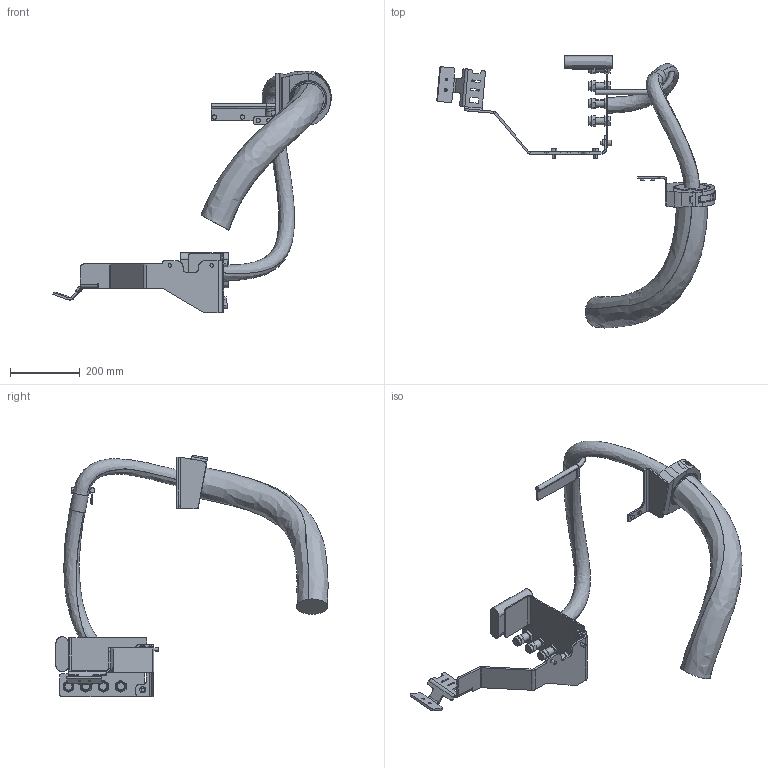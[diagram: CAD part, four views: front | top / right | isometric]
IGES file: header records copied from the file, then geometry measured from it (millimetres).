
Start section: SolidWorks IGES file using analytic representation for surfaces
Global section: file name: C:\Data\SAP_DOC\IRB6740_lightweight\6750S\IRB 6750S ASM\IRB6750S-LID-SW_185kg-390_OC_01_SW_J\IRB6750S-LID-SW_185kg-390_OC_01_IGES_J\IRB6750S-LID-SW_ALL-OC_00_LINK03a_CABLE.igs; native system: SolidWorks 2024; preprocessor: SolidWorks 2024; author: SEJAOLS6; date: 260513.074056; units: millimetre
Bounding box: 797.03 x 779.75 x 692.56 mm (x, y, z)
Surface area: 693490.9 mm2 (no closed solid volume)
Topology: 0 solids, 0 shells, 525 faces, 7326 edges, 7326 vertices
Faces by surface type: bspline 337, revolution 188
